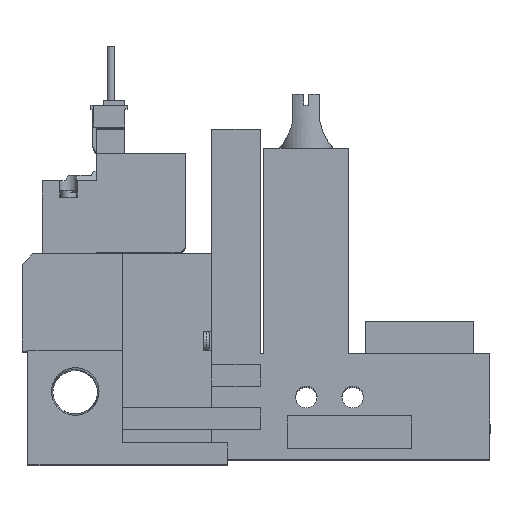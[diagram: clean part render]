
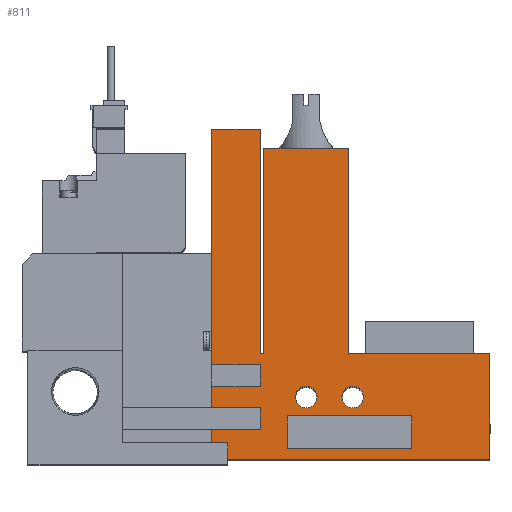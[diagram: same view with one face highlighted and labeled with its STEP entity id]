
A CAD part, top view. The second image highlights one B-rep face of the part: STEP entity #811.
In plain terms, the highlighted planar face has unit normal (0, 0, 1).
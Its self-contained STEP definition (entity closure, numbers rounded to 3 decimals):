
#811=ADVANCED_FACE('',(#1558,#1559,#1560,#1561),#1562,.T.);
#1558=FACE_OUTER_BOUND('',#2608,.T.);
#1559=FACE_BOUND('',#2609,.T.);
#1560=FACE_BOUND('',#2610,.T.);
#1561=FACE_BOUND('',#2611,.T.);
#1562=PLANE('',#2612);
#2608=EDGE_LOOP('',(#5332,#5333,#5334,#5335,#5336,#5337,#5338,#5339,#5340,#5341,#5342,#5343,#5344,#5345,#5346,#5347,#5348,#5349));
#2609=EDGE_LOOP('',(#5350,#5351,#5352,#5353));
#2610=EDGE_LOOP('',(#5354));
#2611=EDGE_LOOP('',(#5355));
#2612=AXIS2_PLACEMENT_3D('',#5356,#5357,#5358);
#5332=ORIENTED_EDGE('',*,*,#7295,.T.);
#5333=ORIENTED_EDGE('',*,*,#7299,.T.);
#5334=ORIENTED_EDGE('',*,*,#7219,.T.);
#5335=ORIENTED_EDGE('',*,*,#7250,.T.);
#5336=ORIENTED_EDGE('',*,*,#7300,.T.);
#5337=ORIENTED_EDGE('',*,*,#7301,.T.);
#5338=ORIENTED_EDGE('',*,*,#7240,.T.);
#5339=ORIENTED_EDGE('',*,*,#7275,.T.);
#5340=ORIENTED_EDGE('',*,*,#7302,.T.);
#5341=ORIENTED_EDGE('',*,*,#7303,.T.);
#5342=ORIENTED_EDGE('',*,*,#7304,.T.);
#5343=ORIENTED_EDGE('',*,*,#7305,.T.);
#5344=ORIENTED_EDGE('',*,*,#7306,.T.);
#5345=ORIENTED_EDGE('',*,*,#7307,.T.);
#5346=ORIENTED_EDGE('',*,*,#7221,.T.);
#5347=ORIENTED_EDGE('',*,*,#7308,.T.);
#5348=ORIENTED_EDGE('',*,*,#7162,.T.);
#5349=ORIENTED_EDGE('',*,*,#7309,.T.);
#5350=ORIENTED_EDGE('',*,*,#7133,.T.);
#5351=ORIENTED_EDGE('',*,*,#7126,.T.);
#5352=ORIENTED_EDGE('',*,*,#7310,.T.);
#5353=ORIENTED_EDGE('',*,*,#7311,.T.);
#5354=ORIENTED_EDGE('',*,*,#7312,.T.);
#5355=ORIENTED_EDGE('',*,*,#7262,.T.);
#5356=CARTESIAN_POINT('',(0.0,0.0,10.0));
#5357=DIRECTION('',(0.0,0.0,1.0));
#5358=DIRECTION('',(1.0,0.0,0.0));
#7126=EDGE_CURVE('',#8584,#8589,#8591,.T.);
#7133=EDGE_CURVE('',#8600,#8584,#8604,.T.);
#7162=EDGE_CURVE('',#8660,#8658,#8661,.T.);
#7219=EDGE_CURVE('',#8760,#8765,#8767,.T.);
#7221=EDGE_CURVE('',#8770,#8768,#8771,.T.);
#7240=EDGE_CURVE('',#8796,#8801,#8803,.T.);
#7250=EDGE_CURVE('',#8765,#8818,#8820,.T.);
#7262=EDGE_CURVE('',#8837,#8837,#8838,.T.);
#7275=EDGE_CURVE('',#8801,#8854,#8856,.T.);
#7295=EDGE_CURVE('',#8882,#8880,#8883,.T.);
#7299=EDGE_CURVE('',#8880,#8760,#8887,.T.);
#7300=EDGE_CURVE('',#8818,#8888,#8889,.T.);
#7301=EDGE_CURVE('',#8888,#8796,#8890,.T.);
#7302=EDGE_CURVE('',#8854,#8891,#8892,.T.);
#7303=EDGE_CURVE('',#8891,#8893,#8894,.T.);
#7304=EDGE_CURVE('',#8893,#8895,#8896,.T.);
#7305=EDGE_CURVE('',#8895,#8897,#8898,.T.);
#7306=EDGE_CURVE('',#8897,#8899,#8900,.T.);
#7307=EDGE_CURVE('',#8899,#8770,#8901,.T.);
#7308=EDGE_CURVE('',#8768,#8660,#8902,.T.);
#7309=EDGE_CURVE('',#8658,#8882,#8903,.T.);
#7310=EDGE_CURVE('',#8589,#8904,#8905,.T.);
#7311=EDGE_CURVE('',#8904,#8600,#8906,.T.);
#7312=EDGE_CURVE('',#8907,#8907,#8908,.T.);
#8584=VERTEX_POINT('',#10963);
#8589=VERTEX_POINT('',#10970);
#8591=LINE('',#10973,#10974);
#8600=VERTEX_POINT('',#10987);
#8604=LINE('',#10993,#10994);
#8658=VERTEX_POINT('',#11071);
#8660=VERTEX_POINT('',#11074);
#8661=LINE('',#11075,#11076);
#8760=VERTEX_POINT('',#11240);
#8765=VERTEX_POINT('',#11247);
#8767=LINE('',#11250,#11251);
#8768=VERTEX_POINT('',#11252);
#8770=VERTEX_POINT('',#11255);
#8771=LINE('',#11256,#11257);
#8796=VERTEX_POINT('',#11295);
#8801=VERTEX_POINT('',#11302);
#8803=LINE('',#11305,#11306);
#8818=VERTEX_POINT('',#11327);
#8820=LINE('',#11330,#11331);
#8837=VERTEX_POINT('',#11359);
#8838=CIRCLE('',#11360,2.0);
#8854=VERTEX_POINT('',#11386);
#8856=LINE('',#11389,#11390);
#8880=VERTEX_POINT('',#11431);
#8882=VERTEX_POINT('',#11434);
#8883=LINE('',#11435,#11436);
#8887=LINE('',#11443,#11444);
#8888=VERTEX_POINT('',#11445);
#8889=LINE('',#11446,#11447);
#8890=LINE('',#11448,#11449);
#8891=VERTEX_POINT('',#11450);
#8892=LINE('',#11451,#11452);
#8893=VERTEX_POINT('',#11453);
#8894=LINE('',#11454,#11455);
#8895=VERTEX_POINT('',#11456);
#8896=LINE('',#11457,#11458);
#8897=VERTEX_POINT('',#11459);
#8898=LINE('',#11460,#11461);
#8899=VERTEX_POINT('',#11462);
#8900=LINE('',#11463,#11464);
#8901=LINE('',#11465,#11466);
#8902=LINE('',#11467,#11468);
#8903=LINE('',#11469,#11470);
#8904=VERTEX_POINT('',#11471);
#8905=LINE('',#11472,#11473);
#8906=LINE('',#11474,#11475);
#8907=VERTEX_POINT('',#11476);
#8908=CIRCLE('',#11477,2.0);
#10963=CARTESIAN_POINT('',(49.1,8.0,10.0));
#10970=CARTESIAN_POINT('',(72.1,8.0,10.0));
#10973=CARTESIAN_POINT('',(0.0,8.0,10.0));
#10974=VECTOR('',#13111,1.0);
#10987=CARTESIAN_POINT('',(49.1,2.0,10.0));
#10993=CARTESIAN_POINT('',(49.1,0.0,10.0));
#10994=VECTOR('',#13118,1.0);
#11071=CARTESIAN_POINT('',(44.1,61.0,10.0));
#11074=CARTESIAN_POINT('',(44.1,19.5,10.0));
#11075=CARTESIAN_POINT('',(44.1,19.5,10.0));
#11076=VECTOR('',#13155,1.0);
#11240=CARTESIAN_POINT('',(44.1,17.5,10.0));
#11247=CARTESIAN_POINT('',(44.1,13.5,10.0));
#11250=CARTESIAN_POINT('',(44.1,0.0,10.0));
#11251=VECTOR('',#13231,1.0);
#11252=CARTESIAN_POINT('',(44.75,19.5,10.0));
#11255=CARTESIAN_POINT('',(44.75,57.5,10.0));
#11256=CARTESIAN_POINT('',(44.75,57.5,10.0));
#11257=VECTOR('',#13233,1.0);
#11295=CARTESIAN_POINT('',(44.1,9.5,10.0));
#11302=CARTESIAN_POINT('',(44.1,5.5,10.0));
#11305=CARTESIAN_POINT('',(44.1,0.0,10.0));
#11306=VECTOR('',#13256,1.0);
#11327=CARTESIAN_POINT('',(35.1,13.5,10.0));
#11330=CARTESIAN_POINT('',(0.0,13.5,10.0));
#11331=VECTOR('',#13270,1.0);
#11359=CARTESIAN_POINT('',(63.2,11.5,10.0));
#11360=AXIS2_PLACEMENT_3D('',#13282,#13283,#13284);
#11386=CARTESIAN_POINT('',(35.1,5.5,10.0));
#11389=CARTESIAN_POINT('',(0.0,5.5,10.0));
#11390=VECTOR('',#13299,1.0);
#11431=CARTESIAN_POINT('',(35.1,17.5,10.0));
#11434=CARTESIAN_POINT('',(35.1,61.0,10.0));
#11435=CARTESIAN_POINT('',(35.1,61.0,10.0));
#11436=VECTOR('',#13321,1.0);
#11443=CARTESIAN_POINT('',(0.0,17.5,10.0));
#11444=VECTOR('',#13325,1.0);
#11445=CARTESIAN_POINT('',(35.1,9.5,10.0));
#11446=CARTESIAN_POINT('',(35.1,0.0,10.0));
#11447=VECTOR('',#13326,1.0);
#11448=CARTESIAN_POINT('',(0.0,9.5,10.0));
#11449=VECTOR('',#13327,1.0);
#11450=CARTESIAN_POINT('',(35.1,0.0,10.0));
#11451=CARTESIAN_POINT('',(35.1,0.0,10.0));
#11452=VECTOR('',#13328,1.0);
#11453=CARTESIAN_POINT('',(86.6,0.0,10.0));
#11454=CARTESIAN_POINT('',(18.6,0.0,10.0));
#11455=VECTOR('',#13329,1.0);
#11456=CARTESIAN_POINT('',(86.6,19.5,10.0));
#11457=CARTESIAN_POINT('',(86.6,0.0,10.0));
#11458=VECTOR('',#13330,1.0);
#11459=CARTESIAN_POINT('',(60.45,19.5,10.0));
#11460=CARTESIAN_POINT('',(86.6,19.5,10.0));
#11461=VECTOR('',#13331,1.0);
#11462=CARTESIAN_POINT('',(60.45,57.5,10.0));
#11463=CARTESIAN_POINT('',(60.45,19.5,10.0));
#11464=VECTOR('',#13332,1.0);
#11465=CARTESIAN_POINT('',(60.45,57.5,10.0));
#11466=VECTOR('',#13333,1.0);
#11467=CARTESIAN_POINT('',(44.75,19.5,10.0));
#11468=VECTOR('',#13334,1.0);
#11469=CARTESIAN_POINT('',(44.1,61.0,10.0));
#11470=VECTOR('',#13335,1.0);
#11471=CARTESIAN_POINT('',(72.1,2.0,10.0));
#11472=CARTESIAN_POINT('',(72.1,0.0,10.0));
#11473=VECTOR('',#13336,1.0);
#11474=CARTESIAN_POINT('',(0.0,2.0,10.0));
#11475=VECTOR('',#13337,1.0);
#11476=CARTESIAN_POINT('',(54.6,11.5,10.0));
#11477=AXIS2_PLACEMENT_3D('',#13338,#13339,#13340);
#13111=DIRECTION('',(1.0,0.0,0.0));
#13118=DIRECTION('',(0.0,1.0,0.0));
#13155=DIRECTION('',(0.0,1.0,0.0));
#13231=DIRECTION('',(0.0,-1.0,0.0));
#13233=DIRECTION('',(0.0,-1.0,0.0));
#13256=DIRECTION('',(0.0,-1.0,0.0));
#13270=DIRECTION('',(-1.0,0.0,0.0));
#13282=CARTESIAN_POINT('',(61.2,11.5,10.0));
#13283=DIRECTION('',(0.0,0.0,-1.0));
#13284=DIRECTION('',(1.0,0.0,0.0));
#13299=DIRECTION('',(-1.0,0.0,0.0));
#13321=DIRECTION('',(0.0,-1.0,0.0));
#13325=DIRECTION('',(1.0,0.0,0.0));
#13326=DIRECTION('',(0.0,-1.0,0.0));
#13327=DIRECTION('',(1.0,0.0,0.0));
#13328=DIRECTION('',(0.0,-1.0,0.0));
#13329=DIRECTION('',(1.0,0.0,0.0));
#13330=DIRECTION('',(0.0,1.0,0.0));
#13331=DIRECTION('',(-1.0,0.0,0.0));
#13332=DIRECTION('',(0.0,1.0,0.0));
#13333=DIRECTION('',(-1.0,0.0,0.0));
#13334=DIRECTION('',(-1.0,0.0,0.0));
#13335=DIRECTION('',(-1.0,0.0,0.0));
#13336=DIRECTION('',(0.0,-1.0,0.0));
#13337=DIRECTION('',(-1.0,0.0,0.0));
#13338=CARTESIAN_POINT('',(52.6,11.5,10.0));
#13339=DIRECTION('',(0.0,0.0,-1.0));
#13340=DIRECTION('',(1.0,0.0,0.0));
